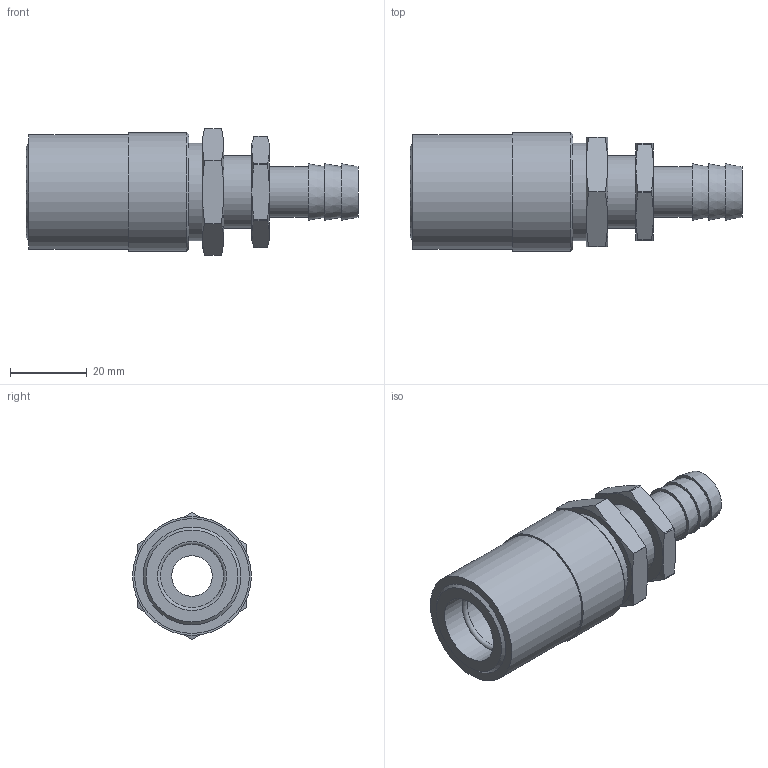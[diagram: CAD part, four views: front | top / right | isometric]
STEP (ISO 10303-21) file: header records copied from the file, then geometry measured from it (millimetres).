
FILE_DESCRIPTION(/* description */ ('STEP AP214'),/* implementation_level */ '2;1');
FILE_NAME(/* name */ 'JS-504-V',/* time_stamp */ '2024-12-19T08:39:57+01:00',/* author */ ('License CC BY-ND 4.0'),/* organization */ ('CADENAS'),/* preprocessor_version */ 'ST-DEVELOPER v19.3',/* originating_system */ 'PARTsolutions',/* authorisation */ ' ');
FILE_SCHEMA (('AUTOMOTIVE_DESIGN {1 0 10303 214 3 1 1}'));
Length unit declared in the file: inch
Products named in the file (1): JS-504-V
Bounding box: 86.61 x 30.99 x 32.99 mm (x, y, z)
Volume: 33143.7 mm3; surface area: 12382.6 mm2
Topology: 1 solids, 1 shells, 65 faces, 141 edges, 89 vertices
Faces by surface type: plane 25, cylinder 20, cone 19, torus 1
Full cylindrical faces by diameter (mm): 10.566 x1, 13.208 x1, 17.983 x2, 19.05 x1, 25.4 x1, 29.972 x1, 30.988 x1
Entity records: 1764 total; most frequent: CARTESIAN_POINT 396, DIRECTION 282, ORIENTED_EDGE 246, AXIS2_PLACEMENT_3D 129, EDGE_CURVE 123, EDGE_LOOP 94, FACE_BOUND 94, VERTEX_POINT 87
